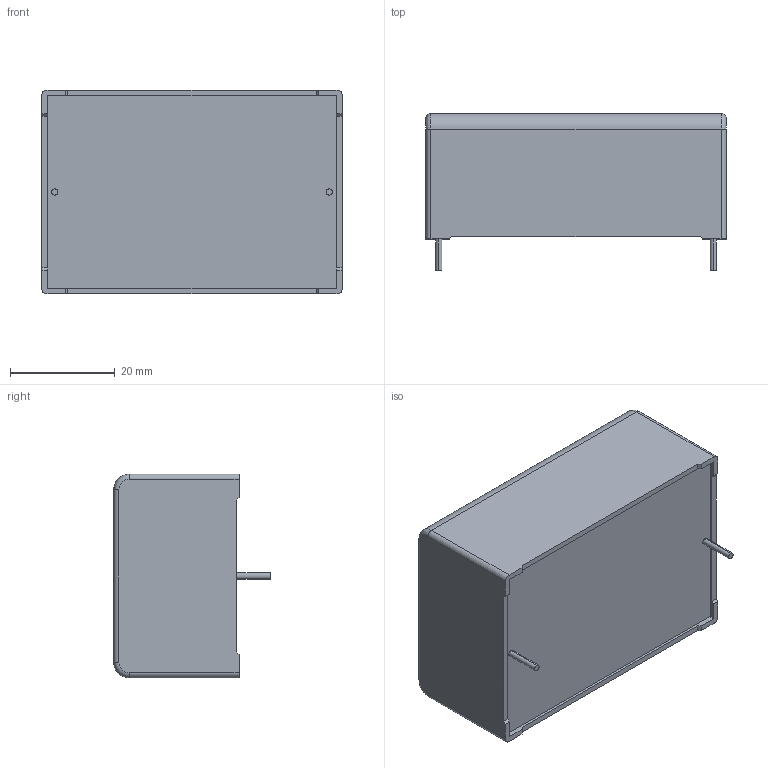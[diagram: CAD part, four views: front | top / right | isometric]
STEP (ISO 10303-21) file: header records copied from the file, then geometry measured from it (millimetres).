
FILE_DESCRIPTION (( 'STEP AP203' ), '1' );
FILE_NAME ('DC_Link_39x24x57.5_2pins.step', '2017-04-03T16:00:19', ( 'work' ), ( 'Hewlett-Packard Company' ), 'SwSTEP 2.0', 'SolidWorks 2017', '' );
FILE_SCHEMA (( 'CONFIG_CONTROL_DESIGN' ));
Length unit declared in the file: millimetre
Products named in the file (1): DC_Link_39x24x57.5_2pins
Bounding box: 57.5 x 30 x 39 mm (x, y, z)
Volume: 51457.4 mm3; surface area: 8971.2 mm2
Topology: 1 solids, 1 shells, 116 faces, 307 edges, 202 vertices
Faces by surface type: plane 80, cylinder 16, bspline 16, torus 4
Entity records: 4332 total; most frequent: CARTESIAN_POINT 1450, ORIENTED_EDGE 614, DIRECTION 513, EDGE_CURVE 307, VECTOR 239, LINE 239, VERTEX_POINT 202, AXIS2_PLACEMENT_3D 137
